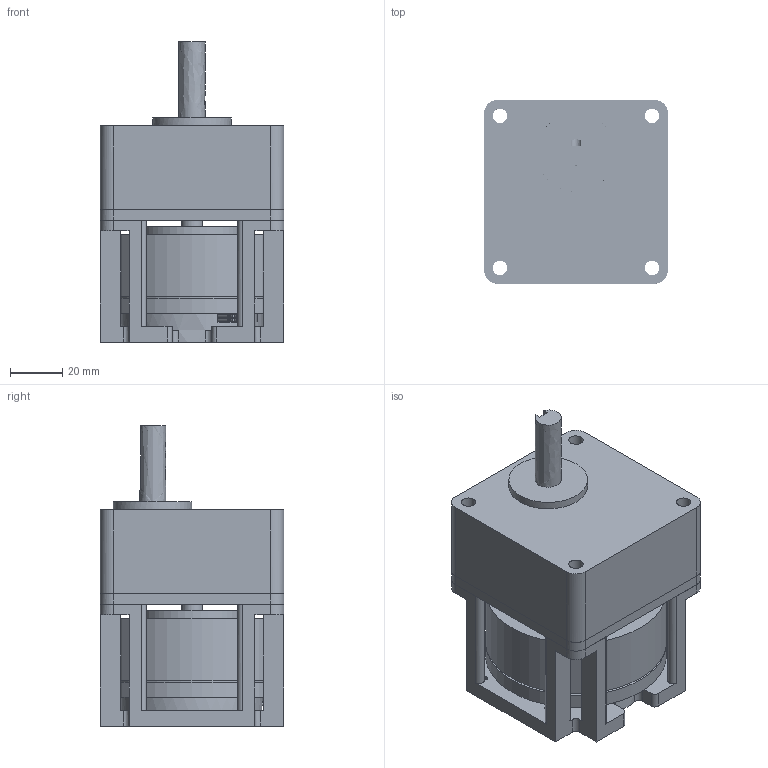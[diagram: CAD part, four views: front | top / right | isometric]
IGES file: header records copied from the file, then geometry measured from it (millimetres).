
Global section: file name: M6829-G70; native system: unknown; preprocessor: unknown; author: unknown; organization: unknown; date: 20191001.133858; units: millimetre
Bounding box: 70 x 70 x 114.5 mm (x, y, z)
Volume: 325215.6 mm3; surface area: 71909.8 mm2
Topology: 3 solids, 8 shells, 404 faces, 1108 edges, 767 vertices
Faces by surface type: bspline 404
